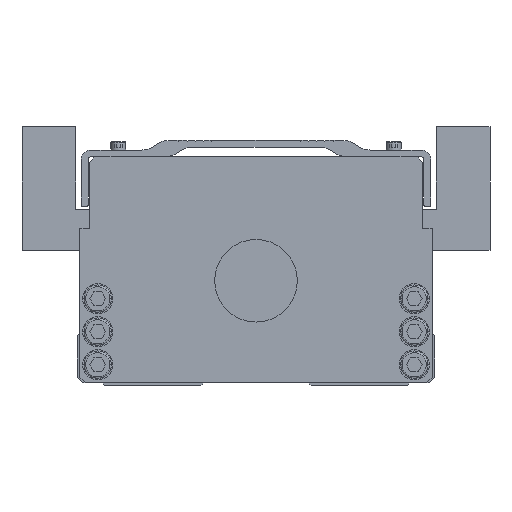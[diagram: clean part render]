
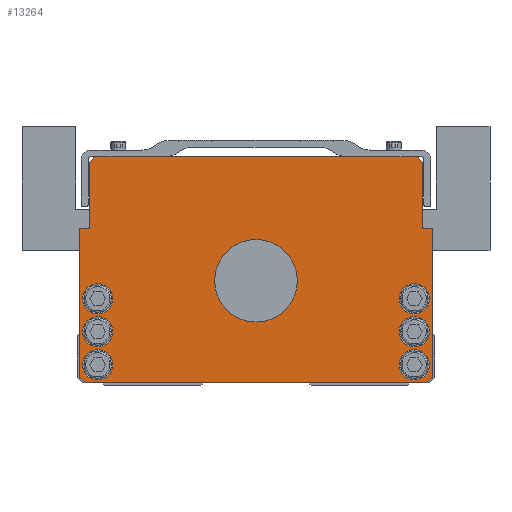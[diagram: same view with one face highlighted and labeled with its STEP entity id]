
A CAD part, front view. The second image highlights one B-rep face of the part: STEP entity #13264.
In plain terms, the highlighted planar face has unit normal (0, -1, 0).
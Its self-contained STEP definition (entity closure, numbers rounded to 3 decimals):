
#4794=VERTEX_POINT('',#14332);
#4806=VERTEX_POINT('',#14345);
#5104=VERTEX_POINT('',#14672);
#5202=VERTEX_POINT('',#14777);
#5204=EDGE_CURVE('',#6718,#8638,#14779,.T.);
#5228=EDGE_CURVE('',#8266,#12618,#14805,.T.);
#5362=VERTEX_POINT('',#14960);
#5694=EDGE_CURVE('',#8752,#10468,#15329,.T.);
#5764=EDGE_CURVE('',#8638,#8580,#15403,.T.);
#5848=EDGE_CURVE('',#7684,#5104,#15495,.T.);
#6550=VERTEX_POINT('',#16289);
#6554=VERTEX_POINT('',#16293);
#6678=EDGE_CURVE('',#10092,#4806,#16435,.T.);
#6718=VERTEX_POINT('',#16482);
#6720=EDGE_CURVE('',#14030,#14168,#16484,.T.);
#6792=VERTEX_POINT('',#16562);
#6996=EDGE_CURVE('',#4806,#5202,#16786,.T.);
#7352=EDGE_CURVE('',#5202,#13682,#17166,.T.);
#7684=VERTEX_POINT('',#17528);
#8100=EDGE_CURVE('',#13334,#6554,#17992,.T.);
#8266=VERTEX_POINT('',#18182);
#8556=EDGE_CURVE('',#9960,#11978,#18500,.T.);
#8580=VERTEX_POINT('',#18525);
#8638=VERTEX_POINT('',#18585);
#8676=EDGE_CURVE('',#6792,#8864,#18633,.T.);
#8752=VERTEX_POINT('',#18726);
#8792=EDGE_CURVE('',#6554,#13334,#18769,.T.);
#8864=VERTEX_POINT('',#18848);
#8878=EDGE_CURVE('',#11234,#6550,#18862,.T.);
#9012=EDGE_CURVE('',#12618,#8266,#19003,.T.);
#9362=VERTEX_POINT('',#19397);
#9728=EDGE_CURVE('',#5362,#11862,#19802,.T.);
#9960=VERTEX_POINT('',#20061);
#10092=VERTEX_POINT('',#20207);
#10372=EDGE_CURVE('',#6550,#11234,#20522,.T.);
#10468=VERTEX_POINT('',#20628);
#10552=EDGE_CURVE('',#10468,#8752,#20718,.T.);
#10820=EDGE_CURVE('',#13682,#9362,#21023,.T.);
#11138=EDGE_CURVE('',#9362,#12402,#21383,.T.);
#11188=EDGE_CURVE('',#8864,#6792,#21436,.T.);
#11234=VERTEX_POINT('',#21485);
#11336=EDGE_CURVE('',#4794,#10092,#21605,.T.);
#11586=EDGE_CURVE('',#14168,#4794,#21891,.T.);
#11650=EDGE_CURVE('',#11978,#6718,#21960,.T.);
#11754=EDGE_CURVE('',#11862,#5362,#22077,.T.);
#11862=VERTEX_POINT('',#22194);
#11978=VERTEX_POINT('',#22323);
#12402=VERTEX_POINT('',#22793);
#12618=VERTEX_POINT('',#23034);
#12762=EDGE_CURVE('',#12402,#9960,#23193,.T.);
#13264=ADVANCED_FACE('',(#23750,#23751,#23752,#23753,#23754,#23755,#23756,#23757),#23758,.T.);
#13334=VERTEX_POINT('',#23836);
#13600=EDGE_CURVE('',#8580,#14030,#24143,.T.);
#13682=VERTEX_POINT('',#24234);
#14030=VERTEX_POINT('',#24626);
#14168=VERTEX_POINT('',#24778);
#14252=EDGE_CURVE('',#5104,#7684,#24874,.T.);
#14332=CARTESIAN_POINT('',(-60.5,0.0,81.0));
#14345=CARTESIAN_POINT('',(-33.25,0.0,83.0));
#14672=CARTESIAN_POINT('',(63.0,0.0,19.5));
#14777=CARTESIAN_POINT('',(33.25,0.0,83.0));
#14779=LINE('',#25563,#25564);
#14805=CIRCLE('',#25599,5.5);
#14960=CARTESIAN_POINT('',(-52.0,0.0,7.5));
#15329=CIRCLE('',#26295,15.0);
#15403=LINE('',#26411,#26412);
#15495=CIRCLE('',#26540,5.5);
#16289=CARTESIAN_POINT('',(-63.0,0.0,19.5));
#16293=CARTESIAN_POINT('',(63.0,0.0,31.5));
#16435=LINE('',#27836,#27837);
#16482=CARTESIAN_POINT('',(62.0,0.0,1.0));
#16484=LINE('',#27897,#27898);
#16562=CARTESIAN_POINT('',(-52.0,0.0,31.5));
#16786=LINE('',#28324,#28325);
#17166=LINE('',#28848,#28849);
#17528=CARTESIAN_POINT('',(52.0,0.0,19.5));
#17992=CIRCLE('',#29969,5.5);
#18182=CARTESIAN_POINT('',(52.0,0.0,7.5));
#18500=LINE('',#30651,#30652);
#18525=CARTESIAN_POINT('',(-64.0,0.0,3.0));
#18585=CARTESIAN_POINT('',(-62.0,0.0,1.0));
#18633=CIRCLE('',#30839,5.5);
#18726=CARTESIAN_POINT('',(-15.0,0.0,38.0));
#18769=CIRCLE('',#31033,5.5);
#18848=CARTESIAN_POINT('',(-63.0,0.0,31.5));
#18862=CIRCLE('',#31165,5.5);
#19003=CIRCLE('',#31371,5.5);
#19397=CARTESIAN_POINT('',(60.5,0.0,81.0));
#19802=CIRCLE('',#32474,5.5);
#20061=CARTESIAN_POINT('',(64.0,0.0,57.0));
#20207=CARTESIAN_POINT('',(-58.5,0.0,83.0));
#20522=CIRCLE('',#33465,5.5);
#20628=CARTESIAN_POINT('',(15.0,0.0,38.0));
#20718=CIRCLE('',#33736,15.0);
#21023=LINE('',#34154,#34155);
#21383=LINE('',#34651,#34652);
#21436=CIRCLE('',#34727,5.5);
#21485=CARTESIAN_POINT('',(-52.0,0.0,19.5));
#21605=LINE('',#34954,#34955);
#21891=LINE('',#35350,#35351);
#21960=LINE('',#35452,#35453);
#22077=CIRCLE('',#35615,5.5);
#22194=CARTESIAN_POINT('',(-63.0,0.0,7.5));
#22323=CARTESIAN_POINT('',(64.0,0.0,3.0));
#22793=CARTESIAN_POINT('',(60.5,0.0,57.0));
#23034=CARTESIAN_POINT('',(63.0,0.0,7.5));
#23193=LINE('',#37164,#37165);
#23750=FACE_BOUND('',#37929,.T.);
#23751=FACE_BOUND('',#37930,.T.);
#23752=FACE_BOUND('',#37931,.T.);
#23753=FACE_BOUND('',#37932,.T.);
#23754=FACE_BOUND('',#37933,.T.);
#23755=FACE_BOUND('',#37934,.T.);
#23756=FACE_BOUND('',#37935,.T.);
#23757=FACE_OUTER_BOUND('',#37936,.T.);
#23758=PLANE('',#37937);
#23836=CARTESIAN_POINT('',(52.0,0.0,31.5));
#24143=LINE('',#38446,#38447);
#24234=CARTESIAN_POINT('',(58.5,0.0,83.0));
#24626=CARTESIAN_POINT('',(-64.0,0.0,57.0));
#24778=CARTESIAN_POINT('',(-60.5,0.0,57.0));
#24874=CIRCLE('',#39437,5.5);
#25563=CARTESIAN_POINT('',(-62.0,0.0,1.0));
#25564=VECTOR('',#39977,1.0);
#25599=AXIS2_PLACEMENT_3D('',#40004,#40005,#40006);
#26295=AXIS2_PLACEMENT_3D('',#40639,#40640,#40641);
#26411=CARTESIAN_POINT('',(-64.0,0.0,3.0));
#26412=VECTOR('',#40707,1.);
#26540=AXIS2_PLACEMENT_3D('',#40802,#40803,#40804);
#27836=CARTESIAN_POINT('',(58.5,0.0,83.0));
#27837=VECTOR('',#41995,1.0);
#27897=CARTESIAN_POINT('',(-60.5,0.0,57.0));
#27898=VECTOR('',#42052,1.0);
#28324=CARTESIAN_POINT('',(58.5,0.0,83.0));
#28325=VECTOR('',#42384,1.0);
#28848=CARTESIAN_POINT('',(58.5,0.0,83.0));
#28849=VECTOR('',#42726,1.0);
#29969=AXIS2_PLACEMENT_3D('',#43619,#43620,#43621);
#30651=CARTESIAN_POINT('',(64.0,0.0,3.0));
#30652=VECTOR('',#44185,1.0);
#30839=AXIS2_PLACEMENT_3D('',#44324,#44325,#44326);
#31033=AXIS2_PLACEMENT_3D('',#44467,#44468,#44469);
#31165=AXIS2_PLACEMENT_3D('',#44567,#44568,#44569);
#31371=AXIS2_PLACEMENT_3D('',#44696,#44697,#44698);
#32474=AXIS2_PLACEMENT_3D('',#45620,#45621,#45622);
#33465=AXIS2_PLACEMENT_3D('',#46447,#46448,#46449);
#33736=AXIS2_PLACEMENT_3D('',#46651,#46652,#46653);
#34154=CARTESIAN_POINT('',(60.5,0.0,81.0));
#34155=VECTOR('',#47028,1.);
#34651=CARTESIAN_POINT('',(60.5,0.0,57.0));
#34652=VECTOR('',#47455,1.0);
#34727=AXIS2_PLACEMENT_3D('',#47504,#47505,#47506);
#34954=CARTESIAN_POINT('',(-58.5,0.0,83.0));
#34955=VECTOR('',#47727,1.);
#35350=CARTESIAN_POINT('',(-60.5,0.0,81.0));
#35351=VECTOR('',#48162,1.0);
#35452=CARTESIAN_POINT('',(62.0,0.0,1.0));
#35453=VECTOR('',#48238,1.);
#35615=AXIS2_PLACEMENT_3D('',#48390,#48391,#48392);
#37164=CARTESIAN_POINT('',(64.0,0.0,57.0));
#37165=VECTOR('',#49684,1.0);
#37929=EDGE_LOOP('',(#50300,#50301));
#37930=EDGE_LOOP('',(#50302,#50303));
#37931=EDGE_LOOP('',(#50304,#50305));
#37932=EDGE_LOOP('',(#50306,#50307));
#37933=EDGE_LOOP('',(#50308,#50309));
#37934=EDGE_LOOP('',(#50310,#50311));
#37935=EDGE_LOOP('',(#50312,#50313));
#37936=EDGE_LOOP('',(#50314,#50315,#50316,#50317,#50318,#50319,#50320,#50321,#50322,#50323,#50324,#50325,#50326,#50327));
#37937=AXIS2_PLACEMENT_3D('',#50328,#50329,#50330);
#38446=CARTESIAN_POINT('',(-64.0,0.0,57.0));
#38447=VECTOR('',#50832,1.0);
#39437=AXIS2_PLACEMENT_3D('',#51702,#51703,#51704);
#39977=DIRECTION('',(-1.0,0.0,-0.0));
#40004=CARTESIAN_POINT('',(57.5,0.0,7.5));
#40005=DIRECTION('',(-0.0,1.0,0.0));
#40006=DIRECTION('',(1.0,0.0,0.0));
#40639=CARTESIAN_POINT('',(0.0,0.0,38.0));
#40640=DIRECTION('',(-0.0,1.0,0.0));
#40641=DIRECTION('',(1.0,0.0,0.0));
#40707=DIRECTION('',(-0.707,0.0,0.707));
#40802=CARTESIAN_POINT('',(57.5,0.0,19.5));
#40803=DIRECTION('',(-0.0,1.0,0.0));
#40804=DIRECTION('',(1.0,0.0,0.0));
#41995=DIRECTION('',(1.0,0.0,0.0));
#42052=DIRECTION('',(1.0,0.0,0.0));
#42384=DIRECTION('',(1.0,0.0,0.0));
#42726=DIRECTION('',(1.0,0.0,0.0));
#43619=CARTESIAN_POINT('',(57.5,0.0,31.5));
#43620=DIRECTION('',(-0.0,1.0,0.0));
#43621=DIRECTION('',(1.0,0.0,0.0));
#44185=DIRECTION('',(-0.0,0.0,-1.0));
#44324=CARTESIAN_POINT('',(-57.5,0.0,31.5));
#44325=DIRECTION('',(-0.0,1.0,0.0));
#44326=DIRECTION('',(1.0,0.0,0.0));
#44467=CARTESIAN_POINT('',(57.5,0.0,31.5));
#44468=DIRECTION('',(-0.0,1.0,0.0));
#44469=DIRECTION('',(1.0,0.0,0.0));
#44567=CARTESIAN_POINT('',(-57.5,0.0,19.5));
#44568=DIRECTION('',(-0.0,1.0,0.0));
#44569=DIRECTION('',(1.0,0.0,0.0));
#44696=CARTESIAN_POINT('',(57.5,0.0,7.5));
#44697=DIRECTION('',(-0.0,1.0,0.0));
#44698=DIRECTION('',(1.0,0.0,0.0));
#45620=CARTESIAN_POINT('',(-57.5,0.0,7.5));
#45621=DIRECTION('',(-0.0,1.0,0.0));
#45622=DIRECTION('',(1.0,0.0,0.0));
#46447=CARTESIAN_POINT('',(-57.5,0.0,19.5));
#46448=DIRECTION('',(-0.0,1.0,0.0));
#46449=DIRECTION('',(1.0,0.0,0.0));
#46651=CARTESIAN_POINT('',(0.0,0.0,38.0));
#46652=DIRECTION('',(-0.0,1.0,0.0));
#46653=DIRECTION('',(1.0,0.0,0.0));
#47028=DIRECTION('',(0.707,0.0,-0.707));
#47455=DIRECTION('',(-0.0,0.0,-1.0));
#47504=CARTESIAN_POINT('',(-57.5,0.0,31.5));
#47505=DIRECTION('',(-0.0,1.0,0.0));
#47506=DIRECTION('',(1.0,0.0,0.0));
#47727=DIRECTION('',(0.707,0.0,0.707));
#48162=DIRECTION('',(0.0,0.0,1.0));
#48238=DIRECTION('',(-0.707,0.0,-0.707));
#48390=CARTESIAN_POINT('',(-57.5,0.0,7.5));
#48391=DIRECTION('',(-0.0,1.0,0.0));
#48392=DIRECTION('',(1.0,0.0,0.0));
#49684=DIRECTION('',(1.0,0.0,0.0));
#50300=ORIENTED_EDGE('',*,*,#10552,.T.);
#50301=ORIENTED_EDGE('',*,*,#5694,.T.);
#50302=ORIENTED_EDGE('',*,*,#8792,.T.);
#50303=ORIENTED_EDGE('',*,*,#8100,.T.);
#50304=ORIENTED_EDGE('',*,*,#14252,.T.);
#50305=ORIENTED_EDGE('',*,*,#5848,.T.);
#50306=ORIENTED_EDGE('',*,*,#9012,.T.);
#50307=ORIENTED_EDGE('',*,*,#5228,.T.);
#50308=ORIENTED_EDGE('',*,*,#8676,.T.);
#50309=ORIENTED_EDGE('',*,*,#11188,.T.);
#50310=ORIENTED_EDGE('',*,*,#8878,.T.);
#50311=ORIENTED_EDGE('',*,*,#10372,.T.);
#50312=ORIENTED_EDGE('',*,*,#9728,.T.);
#50313=ORIENTED_EDGE('',*,*,#11754,.T.);
#50314=ORIENTED_EDGE('',*,*,#5764,.F.);
#50315=ORIENTED_EDGE('',*,*,#5204,.F.);
#50316=ORIENTED_EDGE('',*,*,#11650,.F.);
#50317=ORIENTED_EDGE('',*,*,#8556,.F.);
#50318=ORIENTED_EDGE('',*,*,#12762,.F.);
#50319=ORIENTED_EDGE('',*,*,#11138,.F.);
#50320=ORIENTED_EDGE('',*,*,#10820,.F.);
#50321=ORIENTED_EDGE('',*,*,#7352,.F.);
#50322=ORIENTED_EDGE('',*,*,#6996,.F.);
#50323=ORIENTED_EDGE('',*,*,#6678,.F.);
#50324=ORIENTED_EDGE('',*,*,#11336,.F.);
#50325=ORIENTED_EDGE('',*,*,#11586,.F.);
#50326=ORIENTED_EDGE('',*,*,#6720,.F.);
#50327=ORIENTED_EDGE('',*,*,#13600,.F.);
#50328=CARTESIAN_POINT('',(0.,0.0,41.562));
#50329=DIRECTION('',(0.0,-1.0,0.0));
#50330=DIRECTION('',(1.0,0.0,0.0));
#50832=DIRECTION('',(0.0,0.0,1.0));
#51702=CARTESIAN_POINT('',(57.5,0.0,19.5));
#51703=DIRECTION('',(-0.0,1.0,0.0));
#51704=DIRECTION('',(1.0,0.0,0.0));
